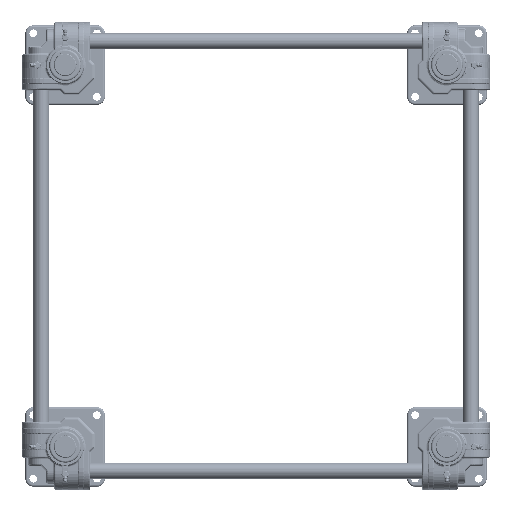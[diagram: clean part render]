
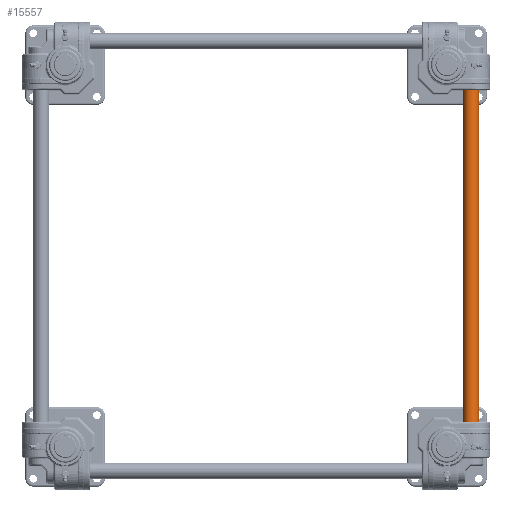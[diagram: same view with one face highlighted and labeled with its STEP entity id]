
A CAD part, top view. The second image highlights one B-rep face of the part: STEP entity #15557.
In plain terms, the highlighted cylindrical face has radius 12.5 mm (diameter 25 mm), a full revolution.
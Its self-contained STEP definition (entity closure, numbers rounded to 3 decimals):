
#15557=ADVANCED_FACE('',(#37969,#37970),#37971,.T.);
#37969=FACE_OUTER_BOUND('',#74468,.T.);
#37970=FACE_OUTER_BOUND('',#74469,.T.);
#37971=CYLINDRICAL_SURFACE('',#74470,12.5);
#74468=EDGE_LOOP('',(#162850));
#74469=EDGE_LOOP('',(#162851));
#74470=AXIS2_PLACEMENT_3D('',#162852,#162853,#162854);
#162850=ORIENTED_EDGE('',*,*,#191249,.T.);
#162851=ORIENTED_EDGE('',*,*,#191246,.T.);
#162852=CARTESIAN_POINT('',(0.0,0.0,642.0));
#162853=DIRECTION('',(0.0,0.0,-1.0));
#162854=DIRECTION('',(-1.0,0.0,0.0));
#191246=EDGE_CURVE('',#238294,#238294,#238295,.F.);
#191249=EDGE_CURVE('',#238300,#238300,#238301,.T.);
#238294=VERTEX_POINT('',#332520);
#238295=CIRCLE('',#332521,12.5);
#238300=VERTEX_POINT('',#332526);
#238301=CIRCLE('',#332527,12.5);
#332520=CARTESIAN_POINT('',(12.5,0.0,641.0));
#332521=AXIS2_PLACEMENT_3D('',#364576,#364577,#364578);
#332526=CARTESIAN_POINT('',(12.5,0.0,1.0));
#332527=AXIS2_PLACEMENT_3D('',#364585,#364586,#364587);
#364576=CARTESIAN_POINT('',(0.0,0.0,641.0));
#364577=DIRECTION('',(0.0,0.0,1.0));
#364578=DIRECTION('',(1.0,0.0,0.0));
#364585=CARTESIAN_POINT('',(0.0,0.0,1.0));
#364586=DIRECTION('',(0.0,0.0,1.0));
#364587=DIRECTION('',(1.0,0.0,0.0));
